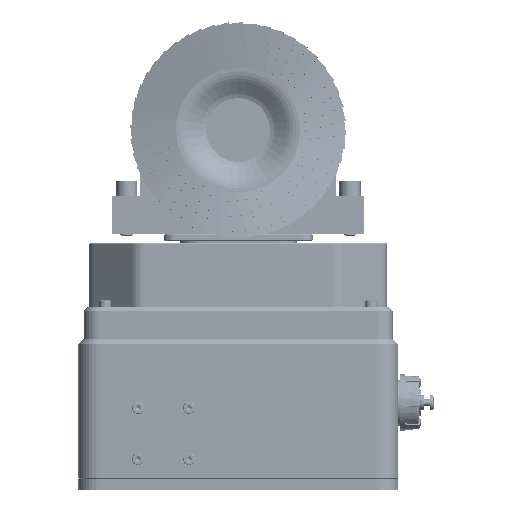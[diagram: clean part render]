
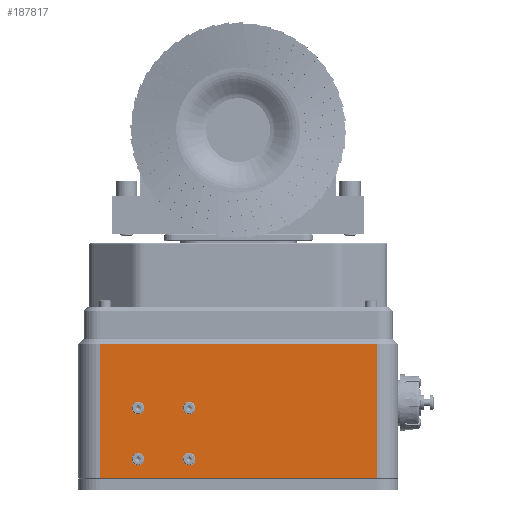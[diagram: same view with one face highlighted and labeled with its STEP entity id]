
A CAD part, front view. The second image highlights one B-rep face of the part: STEP entity #187817.
In plain terms, the highlighted planar face has unit normal (0, -1, 0) as drawn and (1, 0, 0) by its records, which use the part's own axes.
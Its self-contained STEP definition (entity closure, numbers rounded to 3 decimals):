
#1779 = ORIENTED_EDGE ( 'NONE', *, *, #166850, .F. ) ;
#3808 = CARTESIAN_POINT ( 'NONE',  ( 37.36, 75.978, 217.5 ) ) ;
#7304 = VERTEX_POINT ( 'NONE', #152707 ) ;
#7353 = AXIS2_PLACEMENT_3D ( 'NONE', #224452, #204088, #88208 ) ;
#12472 = CIRCLE ( 'NONE', #28633, 3. ) ;
#12758 = VERTEX_POINT ( 'NONE', #213895 ) ;
#13092 = EDGE_CURVE ( 'NONE', #12758, #183875, #65907, .T. ) ;
#18549 = VERTEX_POINT ( 'NONE', #126193 ) ;
#26496 = CARTESIAN_POINT ( 'NONE',  ( 37.36, 57.978, 247.5 ) ) ;
#27838 = AXIS2_PLACEMENT_3D ( 'NONE', #213406, #195547, #74639 ) ;
#28633 = AXIS2_PLACEMENT_3D ( 'NONE', #176876, #249632, #174390 ) ;
#33403 = CARTESIAN_POINT ( 'NONE',  ( 37.36, 33.978, 244.5 ) ) ;
#40647 = VERTEX_POINT ( 'NONE', #87539 ) ;
#41985 = VECTOR ( 'NONE', #214349, 1000. ) ;
#44030 = CIRCLE ( 'NONE', #27838, 3. ) ;
#50638 = CARTESIAN_POINT ( 'NONE',  ( 37.36, 33.978, 274.5 ) ) ;
#51498 = EDGE_CURVE ( 'NONE', #244747, #169712, #231232, .T. ) ;
#54653 = DIRECTION ( 'NONE',  ( 1., 0., 0. ) ) ;
#55012 = VERTEX_POINT ( 'NONE', #3808 ) ;
#57787 = CARTESIAN_POINT ( 'NONE',  ( 37.36, 57.978, 250.5 ) ) ;
#58932 = LINE ( 'NONE', #136677, #41985 ) ;
#60486 = AXIS2_PLACEMENT_3D ( 'NONE', #112029, #54653, #245853 ) ;
#61247 = ORIENTED_EDGE ( 'NONE', *, *, #217584, .F. ) ;
#61953 = DIRECTION ( 'NONE',  ( 0., 0., 1. ) ) ;
#65907 = CIRCLE ( 'NONE', #94338, 3. ) ;
#66595 = VECTOR ( 'NONE', #74691, 1000. ) ;
#67476 = EDGE_LOOP ( 'NONE', ( #140756, #229599 ) ) ;
#68369 = CARTESIAN_POINT ( 'NONE',  ( 37.36, 75.978, 280.5 ) ) ;
#70320 = FACE_BOUND ( 'NONE', #156602, .T. ) ;
#70919 = CARTESIAN_POINT ( 'NONE',  ( 37.36, -54.022, 280.5 ) ) ;
#73630 = DIRECTION ( 'NONE',  ( 0., 0., 1. ) ) ;
#74639 = DIRECTION ( 'NONE',  ( 0., 0., 1. ) ) ;
#74691 = DIRECTION ( 'NONE',  ( 0., -1., 0. ) ) ;
#78858 = EDGE_CURVE ( 'NONE', #55012, #93364, #205709, .T. ) ;
#79153 = LINE ( 'NONE', #153083, #162432 ) ;
#86938 = FACE_OUTER_BOUND ( 'NONE', #199938, .T. ) ;
#87539 = CARTESIAN_POINT ( 'NONE',  ( 37.36, 57.978, 244.5 ) ) ;
#88208 = DIRECTION ( 'NONE',  ( 0., -1., 0. ) ) ;
#88318 = EDGE_CURVE ( 'NONE', #93364, #18549, #249239, .T. ) ;
#91829 = AXIS2_PLACEMENT_3D ( 'NONE', #26496, #185694, #103067 ) ;
#93364 = VERTEX_POINT ( 'NONE', #68369 ) ;
#94338 = AXIS2_PLACEMENT_3D ( 'NONE', #198233, #103999, #61953 ) ;
#100596 = EDGE_CURVE ( 'NONE', #251031, #40647, #173202, .T. ) ;
#103067 = DIRECTION ( 'NONE',  ( 0., 0., 1. ) ) ;
#103786 = ORIENTED_EDGE ( 'NONE', *, *, #116336, .T. ) ;
#103999 = DIRECTION ( 'NONE',  ( 1., 0., 0. ) ) ;
#105563 = EDGE_CURVE ( 'NONE', #135150, #55012, #79153, .T. ) ;
#105734 = DIRECTION ( 'NONE',  ( 1., 0., 0. ) ) ;
#110642 = ORIENTED_EDGE ( 'NONE', *, *, #51498, .F. ) ;
#111069 = EDGE_CURVE ( 'NONE', #183875, #12758, #44030, .T. ) ;
#112029 = CARTESIAN_POINT ( 'NONE',  ( 37.36, 33.978, 271.5 ) ) ;
#116336 = EDGE_CURVE ( 'NONE', #18549, #135150, #58932, .T. ) ;
#126193 = CARTESIAN_POINT ( 'NONE',  ( 37.36, -54.022, 280.5 ) ) ;
#126365 = FACE_BOUND ( 'NONE', #67476, .T. ) ;
#133199 = EDGE_LOOP ( 'NONE', ( #110642, #61247 ) ) ;
#133671 = CIRCLE ( 'NONE', #166818, 3. ) ;
#135150 = VERTEX_POINT ( 'NONE', #207350 ) ;
#136677 = CARTESIAN_POINT ( 'NONE',  ( 37.36, -54.022, 226. ) ) ;
#138878 = VECTOR ( 'NONE', #148385, 1000. ) ;
#140756 = ORIENTED_EDGE ( 'NONE', *, *, #100596, .F. ) ;
#143092 = AXIS2_PLACEMENT_3D ( 'NONE', #251896, #150082, #73630 ) ;
#146766 = FACE_BOUND ( 'NONE', #133199, .T. ) ;
#148385 = DIRECTION ( 'NONE',  ( 0., 0., 1. ) ) ;
#148845 = ORIENTED_EDGE ( 'NONE', *, *, #88318, .T. ) ;
#150082 = DIRECTION ( 'NONE',  ( 1., 0., 0. ) ) ;
#152707 = CARTESIAN_POINT ( 'NONE',  ( 37.36, 57.978, 274.5 ) ) ;
#153083 = CARTESIAN_POINT ( 'NONE',  ( 37.36, 75.978, 217.5 ) ) ;
#153766 = CARTESIAN_POINT ( 'NONE',  ( 37.36, 57.978, 247.5 ) ) ;
#156602 = EDGE_LOOP ( 'NONE', ( #249003, #162734 ) ) ;
#157269 = EDGE_CURVE ( 'NONE', #40647, #251031, #214499, .T. ) ;
#161746 = CARTESIAN_POINT ( 'NONE',  ( 37.36, 33.978, 271.5 ) ) ;
#162432 = VECTOR ( 'NONE', #174696, 1000. ) ;
#162734 = ORIENTED_EDGE ( 'NONE', *, *, #111069, .F. ) ;
#163454 = CIRCLE ( 'NONE', #143092, 3. ) ;
#165453 = CARTESIAN_POINT ( 'NONE',  ( 37.36, 33.978, 268.5 ) ) ;
#166818 = AXIS2_PLACEMENT_3D ( 'NONE', #161746, #105734, #183370 ) ;
#166850 = EDGE_CURVE ( 'NONE', #249864, #7304, #163454, .T. ) ;
#167788 = EDGE_LOOP ( 'NONE', ( #175035, #1779 ) ) ;
#169712 = VERTEX_POINT ( 'NONE', #165453 ) ;
#173202 = CIRCLE ( 'NONE', #91829, 3. ) ;
#174390 = DIRECTION ( 'NONE',  ( 0., 0., 1. ) ) ;
#174696 = DIRECTION ( 'NONE',  ( 0., 1., 0. ) ) ;
#175035 = ORIENTED_EDGE ( 'NONE', *, *, #176087, .F. ) ;
#176087 = EDGE_CURVE ( 'NONE', #7304, #249864, #12472, .T. ) ;
#176876 = CARTESIAN_POINT ( 'NONE',  ( 37.36, 57.978, 271.5 ) ) ;
#182538 = ORIENTED_EDGE ( 'NONE', *, *, #105563, .T. ) ;
#183370 = DIRECTION ( 'NONE',  ( 0., 0., 1. ) ) ;
#183875 = VERTEX_POINT ( 'NONE', #33403 ) ;
#184956 = FACE_BOUND ( 'NONE', #167788, .T. ) ;
#185694 = DIRECTION ( 'NONE',  ( 1., 0., 0. ) ) ;
#186597 = CARTESIAN_POINT ( 'NONE',  ( 37.36, 75.978, 226. ) ) ;
#187817 = ADVANCED_FACE ( 'NONE', ( #146766, #86938, #70320, #126365, #184956 ), #242327, .F. ) ;
#192000 = DIRECTION ( 'NONE',  ( 0., 0., 1. ) ) ;
#195547 = DIRECTION ( 'NONE',  ( 1., 0., 0. ) ) ;
#198233 = CARTESIAN_POINT ( 'NONE',  ( 37.36, 33.978, 247.5 ) ) ;
#199938 = EDGE_LOOP ( 'NONE', ( #103786, #182538, #240680, #148845 ) ) ;
#204088 = DIRECTION ( 'NONE',  ( -1., 0., 0. ) ) ;
#205709 = LINE ( 'NONE', #186597, #138878 ) ;
#207350 = CARTESIAN_POINT ( 'NONE',  ( 37.36, -54.022, 217.5 ) ) ;
#213406 = CARTESIAN_POINT ( 'NONE',  ( 37.36, 33.978, 247.5 ) ) ;
#213895 = CARTESIAN_POINT ( 'NONE',  ( 37.36, 33.978, 250.5 ) ) ;
#214349 = DIRECTION ( 'NONE',  ( 0., 0., -1. ) ) ;
#214499 = CIRCLE ( 'NONE', #243123, 3. ) ;
#217584 = EDGE_CURVE ( 'NONE', #169712, #244747, #133671, .T. ) ;
#224452 = CARTESIAN_POINT ( 'NONE',  ( 37.36, -64.022, 226. ) ) ;
#229599 = ORIENTED_EDGE ( 'NONE', *, *, #157269, .F. ) ;
#231232 = CIRCLE ( 'NONE', #60486, 3. ) ;
#232687 = DIRECTION ( 'NONE',  ( 1., 0., 0. ) ) ;
#240114 = CARTESIAN_POINT ( 'NONE',  ( 37.36, 57.978, 268.5 ) ) ;
#240680 = ORIENTED_EDGE ( 'NONE', *, *, #78858, .T. ) ;
#242327 = PLANE ( 'NONE',  #7353 ) ;
#243123 = AXIS2_PLACEMENT_3D ( 'NONE', #153766, #232687, #192000 ) ;
#244747 = VERTEX_POINT ( 'NONE', #50638 ) ;
#245853 = DIRECTION ( 'NONE',  ( 0., 0., 1. ) ) ;
#249003 = ORIENTED_EDGE ( 'NONE', *, *, #13092, .F. ) ;
#249239 = LINE ( 'NONE', #70919, #66595 ) ;
#249632 = DIRECTION ( 'NONE',  ( 1., 0., 0. ) ) ;
#249864 = VERTEX_POINT ( 'NONE', #240114 ) ;
#251031 = VERTEX_POINT ( 'NONE', #57787 ) ;
#251896 = CARTESIAN_POINT ( 'NONE',  ( 37.36, 57.978, 271.5 ) ) ;
